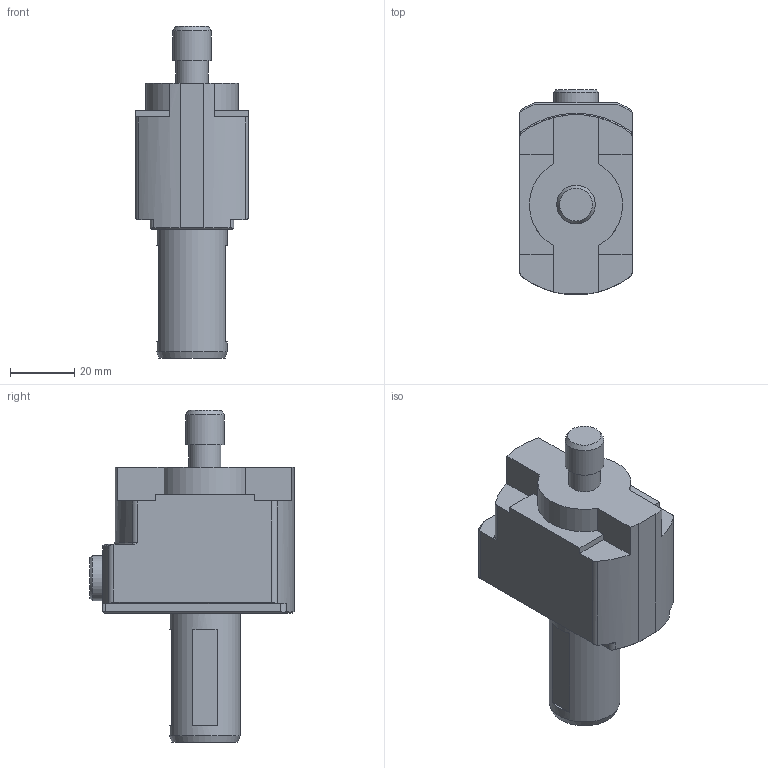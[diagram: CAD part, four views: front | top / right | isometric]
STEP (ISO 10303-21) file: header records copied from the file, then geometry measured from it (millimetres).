
FILE_DESCRIPTION (( 'STEP AP214' ), '1' );
FILE_NAME ('97-000-220 - light.STEP', '2025-06-08T13:03:14', ( 'pc' ), ( '' ), 'SwSTEP 2.0', 'SolidWorks 2024', '' );
FILE_SCHEMA (( 'AUTOMOTIVE_DESIGN' ));
Length unit declared in the file: millimetre
Products named in the file (1): 97-000-220 - light
Bounding box: 35 x 63.5 x 103.3 mm (x, y, z)
Volume: 95058.8 mm3; surface area: 15387.9 mm2
Topology: 1 solids, 1 shells, 84 faces, 210 edges, 136 vertices
Faces by surface type: plane 47, cylinder 23, cone 11, torus 3
Full cylindrical faces by diameter (mm): 10 x1, 12 x1, 14 x2, 15 x1, 22 x1
Entity records: 2516 total; most frequent: CARTESIAN_POINT 561, DIRECTION 405, ORIENTED_EDGE 386, EDGE_CURVE 193, AXIS2_PLACEMENT_3D 153, VERTEX_POINT 131, EDGE_LOOP 104, LINE 99
